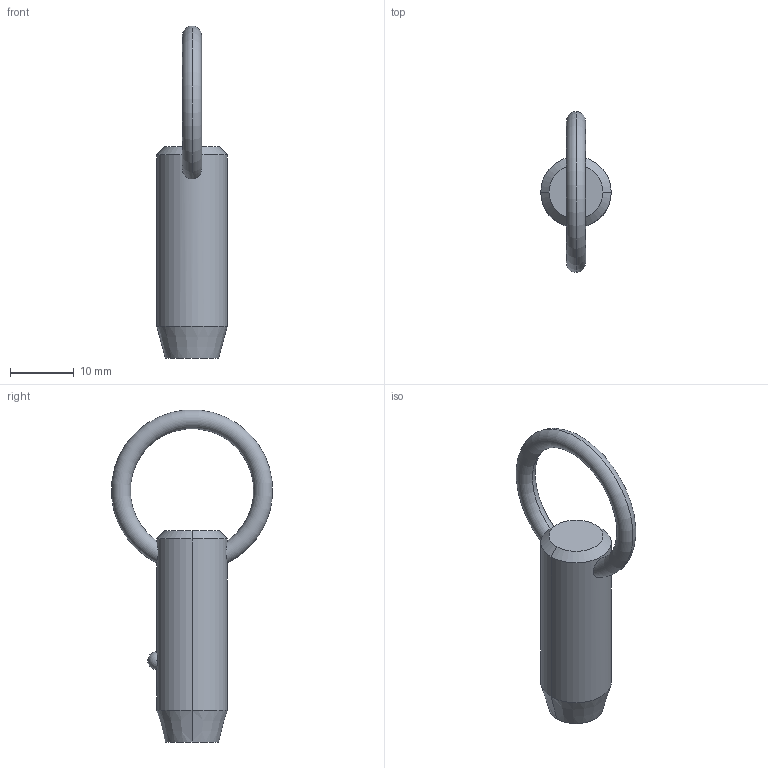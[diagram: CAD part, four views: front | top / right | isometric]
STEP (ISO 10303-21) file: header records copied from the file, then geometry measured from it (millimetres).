
FILE_DESCRIPTION (( 'STEP AP203' ), '1' );
FILE_NAME ('P1250.050-050.step', '2019-07-29T20:27:42', ( '' ), ( '' ), 'SwSTEP 2.0', 'SolidWorks 2017', '' );
FILE_SCHEMA (( 'CONFIG_CONTROL_DESIGN' ));
Length unit declared in the file: millimetre
Products named in the file (1): P1250.050-050
Bounding box: 11.1 x 25.32 x 52.25 mm (x, y, z)
Volume: 3505.1 mm3; surface area: 1813.9 mm2
Topology: 1 solids, 1 shells, 12 faces, 28 edges, 17 vertices
Faces by surface type: cone 4, torus 2, sphere 2, cylinder 2, plane 2
Entity records: 523 total; most frequent: CARTESIAN_POINT 190, DIRECTION 56, ORIENTED_EDGE 48, AXIS2_PLACEMENT_3D 25, EDGE_CURVE 24, EDGE_LOOP 15, VERTEX_POINT 15, ADVANCED_FACE 12
